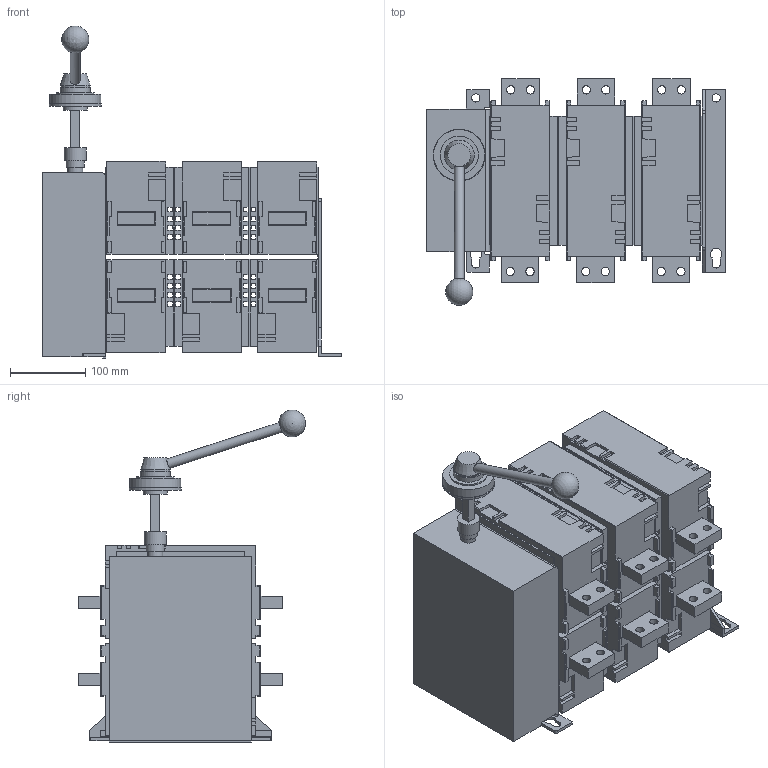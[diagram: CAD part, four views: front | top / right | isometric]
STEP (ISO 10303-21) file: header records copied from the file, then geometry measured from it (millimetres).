
FILE_DESCRIPTION (( 'STEP AP203' ), '1' );
FILE_NAME ('OptiSwitch DI-Ñ4-(1000-1250)-3P, DI-C5-1600-3P (m=35êã).STEP', '2023-02-26T22:57:05', ( 'Ïîëüçîâàòåëü' ), ( '' ), 'SwSTEP 2.0', 'SolidWorks 2018', '' );
FILE_SCHEMA (( 'CONFIG_CONTROL_DESIGN' ));
Length unit declared in the file: millimetre
Products named in the file (1): OptiSwitch DI-Ñ4-(1000-1250)-3P, DI-C5-1600-3P (m=35êã)
Bounding box: 395.52 x 301.05 x 440 mm (x, y, z)
Volume: 17667276.2 mm3; surface area: 909164.4 mm2
Topology: 1 solids, 1 shells, 1093 faces, 3051 edges, 1999 vertices
Faces by surface type: plane 889, cylinder 189, bspline 13, cone 1, sphere 1
Full cylindrical faces by diameter (mm): 3 x4, 8.5 x4, 11 x26, 12 x2, 13 x1, 20 x1, 23.8 x1, 29 x1, 32.2 x1, 38 x1, 40 x1, 50.5 x1, 68 x1, 69 x1
Entity records: 34739 total; most frequent: CARTESIAN_POINT 6577, ORIENTED_EDGE 6000, DIRECTION 5361, EDGE_CURVE 3000, LINE 2651, VECTOR 2651, VERTEX_POINT 1996, AXIS2_PLACEMENT_3D 1355
